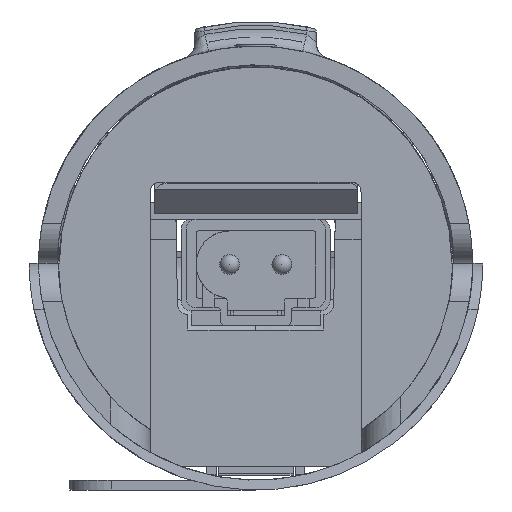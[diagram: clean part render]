
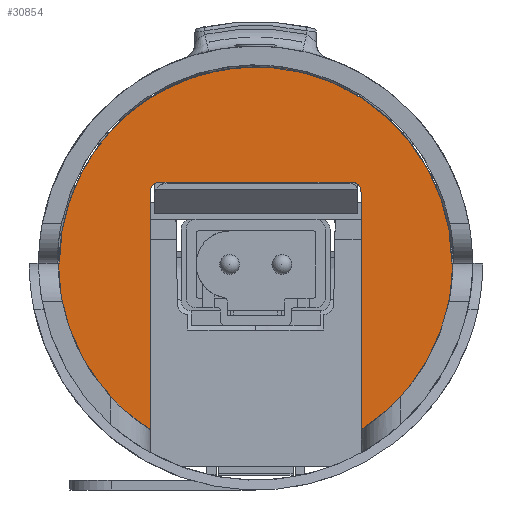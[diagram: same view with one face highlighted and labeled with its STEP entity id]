
A CAD part, left-side view. The second image highlights one B-rep face of the part: STEP entity #30854.
In plain terms, the highlighted planar face has unit normal (-1, 0, 0.009).
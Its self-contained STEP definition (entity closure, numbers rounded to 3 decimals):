
#6846=PLANE('',#34904);
#8139=ORIENTED_EDGE('',*,*,#17358,.T.);
#8140=ORIENTED_EDGE('',*,*,#17359,.T.);
#8141=ORIENTED_EDGE('',*,*,#17360,.T.);
#8142=ORIENTED_EDGE('',*,*,#17361,.F.);
#8143=ORIENTED_EDGE('',*,*,#17346,.T.);
#8144=ORIENTED_EDGE('',*,*,#17362,.T.);
#8145=ORIENTED_EDGE('',*,*,#17363,.F.);
#8146=ORIENTED_EDGE('',*,*,#17364,.F.);
#8147=ORIENTED_EDGE('',*,*,#17365,.F.);
#8148=ORIENTED_EDGE('',*,*,#17351,.T.);
#8149=ORIENTED_EDGE('',*,*,#17366,.F.);
#8150=ORIENTED_EDGE('',*,*,#17367,.T.);
#17346=EDGE_CURVE('',#22337,#22338,#25771,.T.);
#17351=EDGE_CURVE('',#22344,#22343,#25776,.T.);
#17358=EDGE_CURVE('',#22348,#22349,#25783,.T.);
#17359=EDGE_CURVE('',#22349,#22350,#25784,.T.);
#17360=EDGE_CURVE('',#22350,#22351,#25785,.T.);
#17361=EDGE_CURVE('',#22337,#22351,#25786,.F.);
#17362=EDGE_CURVE('',#22338,#22352,#25787,.T.);
#17363=EDGE_CURVE('',#22353,#22352,#25788,.F.);
#17364=EDGE_CURVE('',#22354,#22353,#25789,.F.);
#17365=EDGE_CURVE('',#22344,#22354,#25790,.F.);
#17366=EDGE_CURVE('',#22355,#22343,#25791,.F.);
#17367=EDGE_CURVE('',#22355,#22348,#25792,.T.);
#22337=VERTEX_POINT('',#43436);
#22338=VERTEX_POINT('',#43441);
#22343=VERTEX_POINT('',#43490);
#22344=VERTEX_POINT('',#43500);
#22348=VERTEX_POINT('',#43548);
#22349=VERTEX_POINT('',#43549);
#22350=VERTEX_POINT('',#43554);
#22351=VERTEX_POINT('',#43559);
#22352=VERTEX_POINT('',#43568);
#22353=VERTEX_POINT('',#43586);
#22354=VERTEX_POINT('',#43604);
#22355=VERTEX_POINT('',#43613);
#25771=B_SPLINE_CURVE_WITH_KNOTS('',3,(#43442,#43443,#43444,#43445,#43446,
#43447,#43448,#43449,#43450),.UNSPECIFIED.,.F.,.F.,(4,1,1,1,1,1,4),(0.,
0.25,0.375,0.5,0.625,0.75,1.),.UNSPECIFIED.);
#25776=B_SPLINE_CURVE_WITH_KNOTS('',3,(#43491,#43492,#43493,#43494,#43495,
#43496,#43497,#43498,#43499),.UNSPECIFIED.,.F.,.F.,(4,1,1,1,1,1,4),(0.,
0.25,0.375,0.5,0.625,0.75,1.),.UNSPECIFIED.);
#25783=B_SPLINE_CURVE_WITH_KNOTS('',3,(#43544,#43545,#43546,#43547),
 .UNSPECIFIED.,.F.,.F.,(4,4),(0.,1.),.UNSPECIFIED.);
#25784=B_SPLINE_CURVE_WITH_KNOTS('',3,(#43550,#43551,#43552,#43553),
 .UNSPECIFIED.,.F.,.F.,(4,4),(0.,1.),.UNSPECIFIED.);
#25785=B_SPLINE_CURVE_WITH_KNOTS('',3,(#43555,#43556,#43557,#43558),
 .UNSPECIFIED.,.F.,.F.,(4,4),(0.,1.),.UNSPECIFIED.);
#25786=B_SPLINE_CURVE_WITH_KNOTS('',3,(#43560,#43561,#43562,#43563),
 .UNSPECIFIED.,.F.,.F.,(4,4),(0.,1.),.UNSPECIFIED.);
#25787=B_SPLINE_CURVE_WITH_KNOTS('',3,(#43564,#43565,#43566,#43567),
 .UNSPECIFIED.,.F.,.F.,(4,4),(0.,1.),.UNSPECIFIED.);
#25788=B_SPLINE_CURVE_WITH_KNOTS('',3,(#43569,#43570,#43571,#43572,#43573,
#43574,#43575,#43576,#43577,#43578,#43579,#43580,#43581,#43582,#43583,#43584,
#43585),.UNSPECIFIED.,.F.,.F.,(4,1,1,1,1,1,1,1,1,1,1,1,1,1,4),(0.,0.125,
0.188,0.25,0.313,0.375,0.438,0.5,0.563,0.625,0.688,0.75,0.813,0.875,
1.),.UNSPECIFIED.);
#25789=B_SPLINE_CURVE_WITH_KNOTS('',3,(#43587,#43588,#43589,#43590,#43591,
#43592,#43593,#43594,#43595,#43596,#43597,#43598,#43599,#43600,#43601,#43602,
#43603),.UNSPECIFIED.,.F.,.F.,(4,1,1,1,1,1,1,1,1,1,1,1,1,1,4),(0.,0.125,
0.188,0.25,0.313,0.375,0.438,0.5,0.563,0.625,0.688,0.75,0.813,0.875,
1.),.UNSPECIFIED.);
#25790=B_SPLINE_CURVE_WITH_KNOTS('',3,(#43605,#43606,#43607,#43608),
 .UNSPECIFIED.,.F.,.F.,(4,4),(0.,1.),.UNSPECIFIED.);
#25791=B_SPLINE_CURVE_WITH_KNOTS('',3,(#43609,#43610,#43611,#43612),
 .UNSPECIFIED.,.F.,.F.,(4,4),(0.,1.),.UNSPECIFIED.);
#25792=B_SPLINE_CURVE_WITH_KNOTS('',3,(#43614,#43615,#43616,#43617),
 .UNSPECIFIED.,.F.,.F.,(4,4),(0.,1.),.UNSPECIFIED.);
#27238=EDGE_LOOP('',(#8139,#8140,#8141,#8142,#8143,#8144,#8145,#8146,#8147,
#8148,#8149,#8150));
#28953=FACE_BOUND('',#27238,.T.);
#30854=ADVANCED_FACE('',(#28953),#6846,.T.);
#34904=AXIS2_PLACEMENT_3D('',#43543,#36683,#36684);
#36683=DIRECTION('',(-1.,0.,0.009));
#36684=DIRECTION('',(-0.009,0.,-1.));
#43436=CARTESIAN_POINT('',(489.904,1.796,-22.946));
#43441=CARTESIAN_POINT('',(490.051,-7.504,-6.049));
#43442=CARTESIAN_POINT('',(489.904,1.796,-22.946));
#43443=CARTESIAN_POINT('',(489.912,0.348,-22.029));
#43444=CARTESIAN_POINT('',(489.926,-1.591,-20.433));
#43445=CARTESIAN_POINT('',(489.948,-3.707,-17.874));
#43446=CARTESIAN_POINT('',(489.967,-5.071,-15.717));
#43447=CARTESIAN_POINT('',(489.987,-6.163,-13.411));
#43448=CARTESIAN_POINT('',(490.015,-7.193,-10.255));
#43449=CARTESIAN_POINT('',(490.036,-7.504,-7.762));
#43450=CARTESIAN_POINT('',(490.051,-7.504,-6.049));
#43490=CARTESIAN_POINT('',(489.904,23.196,-22.946));
#43491=CARTESIAN_POINT('',(490.051,32.496,-6.049));
#43492=CARTESIAN_POINT('',(490.036,32.496,-7.762));
#43493=CARTESIAN_POINT('',(490.015,32.185,-10.254));
#43494=CARTESIAN_POINT('',(489.987,31.155,-13.411));
#43495=CARTESIAN_POINT('',(489.967,30.062,-15.717));
#43496=CARTESIAN_POINT('',(489.948,28.699,-17.874));
#43497=CARTESIAN_POINT('',(489.926,26.583,-20.433));
#43498=CARTESIAN_POINT('',(489.912,24.644,-22.029));
#43499=CARTESIAN_POINT('',(489.904,23.196,-22.946));
#43500=CARTESIAN_POINT('',(490.051,32.496,-6.049));
#43543=CARTESIAN_POINT('',(489.872,10.484,-26.638));
#43544=CARTESIAN_POINT('',(490.123,22.196,2.151));
#43545=CARTESIAN_POINT('',(490.123,18.963,2.151));
#43546=CARTESIAN_POINT('',(490.123,15.729,2.151));
#43547=CARTESIAN_POINT('',(490.123,12.496,2.151));
#43548=CARTESIAN_POINT('',(490.123,22.196,2.151));
#43549=CARTESIAN_POINT('',(490.123,12.496,2.151));
#43550=CARTESIAN_POINT('',(490.123,12.496,2.151));
#43551=CARTESIAN_POINT('',(490.123,9.263,2.151));
#43552=CARTESIAN_POINT('',(490.123,6.029,2.151));
#43553=CARTESIAN_POINT('',(490.123,2.796,2.151));
#43554=CARTESIAN_POINT('',(490.123,2.796,2.151));
#43555=CARTESIAN_POINT('',(490.123,2.796,2.151));
#43556=CARTESIAN_POINT('',(490.123,2.246,2.151));
#43557=CARTESIAN_POINT('',(490.119,1.796,1.706));
#43558=CARTESIAN_POINT('',(490.114,1.796,1.151));
#43559=CARTESIAN_POINT('',(490.114,1.796,1.151));
#43560=CARTESIAN_POINT('',(490.114,1.796,1.151));
#43561=CARTESIAN_POINT('',(490.044,1.796,-6.881));
#43562=CARTESIAN_POINT('',(489.974,1.796,-14.914));
#43563=CARTESIAN_POINT('',(489.904,1.796,-22.946));
#43564=CARTESIAN_POINT('',(490.051,-7.504,-6.049));
#43565=CARTESIAN_POINT('',(490.051,-7.471,-6.049));
#43566=CARTESIAN_POINT('',(490.051,-7.437,-6.049));
#43567=CARTESIAN_POINT('',(490.051,-7.404,-6.049));
#43568=CARTESIAN_POINT('',(490.051,-7.404,-6.049));
#43569=CARTESIAN_POINT('',(490.051,-7.404,-6.049));
#43570=CARTESIAN_POINT('',(490.062,-7.404,-4.779));
#43571=CARTESIAN_POINT('',(490.079,-7.231,-2.915));
#43572=CARTESIAN_POINT('',(490.1,-6.644,-0.487));
#43573=CARTESIAN_POINT('',(490.115,-6.049,1.257));
#43574=CARTESIAN_POINT('',(490.131,-5.203,3.117));
#43575=CARTESIAN_POINT('',(490.146,-4.189,4.846));
#43576=CARTESIAN_POINT('',(490.161,-2.961,6.538));
#43577=CARTESIAN_POINT('',(490.174,-1.6,8.047));
#43578=CARTESIAN_POINT('',(490.186,-0.092,9.409));
#43579=CARTESIAN_POINT('',(490.197,1.598,10.636));
#43580=CARTESIAN_POINT('',(490.206,3.325,11.649));
#43581=CARTESIAN_POINT('',(490.213,5.191,12.496));
#43582=CARTESIAN_POINT('',(490.218,6.936,13.091));
#43583=CARTESIAN_POINT('',(490.223,9.365,13.679));
#43584=CARTESIAN_POINT('',(490.225,11.228,13.851));
#43585=CARTESIAN_POINT('',(490.225,12.496,13.851));
#43586=CARTESIAN_POINT('',(490.225,12.496,13.851));
#43587=CARTESIAN_POINT('',(490.225,12.496,13.851));
#43588=CARTESIAN_POINT('',(490.225,13.763,13.851));
#43589=CARTESIAN_POINT('',(490.223,15.626,13.678));
#43590=CARTESIAN_POINT('',(490.218,18.055,13.091));
#43591=CARTESIAN_POINT('',(490.213,19.801,12.496));
#43592=CARTESIAN_POINT('',(490.206,21.665,11.65));
#43593=CARTESIAN_POINT('',(490.197,23.395,10.636));
#43594=CARTESIAN_POINT('',(490.186,25.083,9.41));
#43595=CARTESIAN_POINT('',(490.174,26.592,8.047));
#43596=CARTESIAN_POINT('',(490.161,27.952,6.538));
#43597=CARTESIAN_POINT('',(490.146,29.181,4.845));
#43598=CARTESIAN_POINT('',(490.131,30.194,3.118));
#43599=CARTESIAN_POINT('',(490.115,31.041,1.256));
#43600=CARTESIAN_POINT('',(490.1,31.636,-0.486));
#43601=CARTESIAN_POINT('',(490.079,32.223,-2.914));
#43602=CARTESIAN_POINT('',(490.062,32.396,-4.778));
#43603=CARTESIAN_POINT('',(490.051,32.396,-6.049));
#43604=CARTESIAN_POINT('',(490.051,32.396,-6.049));
#43605=CARTESIAN_POINT('',(490.051,32.396,-6.049));
#43606=CARTESIAN_POINT('',(490.051,32.429,-6.049));
#43607=CARTESIAN_POINT('',(490.051,32.463,-6.049));
#43608=CARTESIAN_POINT('',(490.051,32.496,-6.049));
#43609=CARTESIAN_POINT('',(489.904,23.196,-22.946));
#43610=CARTESIAN_POINT('',(489.974,23.196,-14.914));
#43611=CARTESIAN_POINT('',(490.044,23.196,-6.881));
#43612=CARTESIAN_POINT('',(490.114,23.196,1.151));
#43613=CARTESIAN_POINT('',(490.114,23.196,1.151));
#43614=CARTESIAN_POINT('',(490.114,23.196,1.151));
#43615=CARTESIAN_POINT('',(490.119,23.196,1.701));
#43616=CARTESIAN_POINT('',(490.123,22.75,2.151));
#43617=CARTESIAN_POINT('',(490.123,22.196,2.151));
